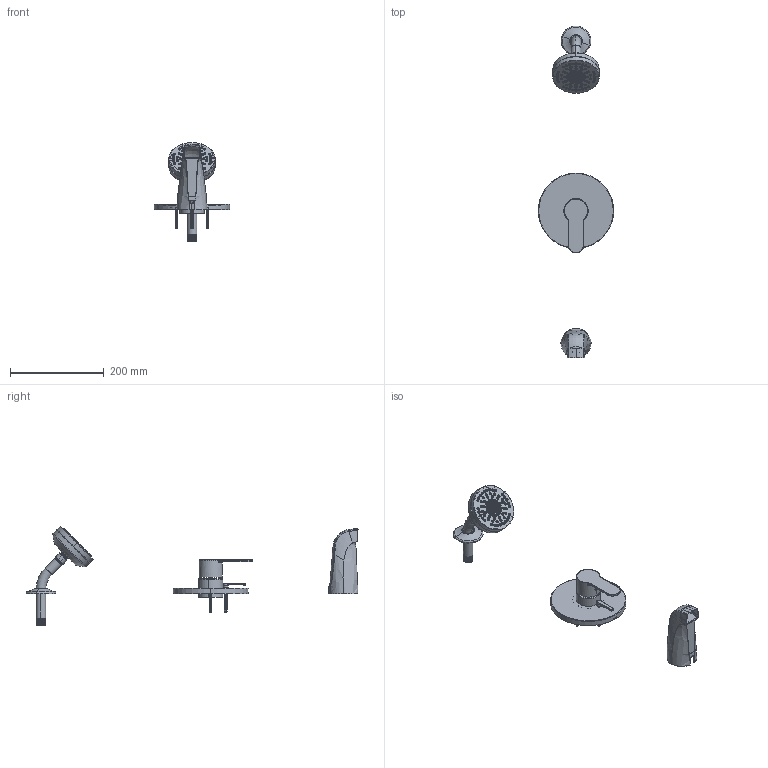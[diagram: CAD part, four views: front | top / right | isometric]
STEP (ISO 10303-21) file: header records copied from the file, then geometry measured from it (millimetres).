
FILE_DESCRIPTION (( 'STEP AP214' ), '1' );
FILE_NAME ('S6792TRM.STEP', '2025-01-15T08:22:13', ( '' ), ( '' ), 'SwSTEP 2.0', 'SolidWorks 2023', '' );
FILE_SCHEMA (( 'AUTOMOTIVE_DESIGN' ));
Length unit declared in the file: inch
Products named in the file (1): S6792TRM
Bounding box: 161.04 x 708.23 x 210.78 mm (x, y, z)
Surface area: 214786.1 mm2 (no closed solid volume)
Topology: 0 solids, 263 shells, 1530 faces, 5058 edges, 3657 vertices
Faces by surface type: cone 412, cylinder 383, plane 326, bspline 323, torus 75, sphere 11
Entity records: 164241 total; most frequent: CARTESIAN_POINT 125574, ORIENTED_EDGE 7688, DIRECTION 6541, EDGE_CURVE 5053, VERTEX_POINT 3654, AXIS2_PLACEMENT_3D 2607, B_SPLINE_CURVE_WITH_KNOTS 2292, EDGE_LOOP 1855
